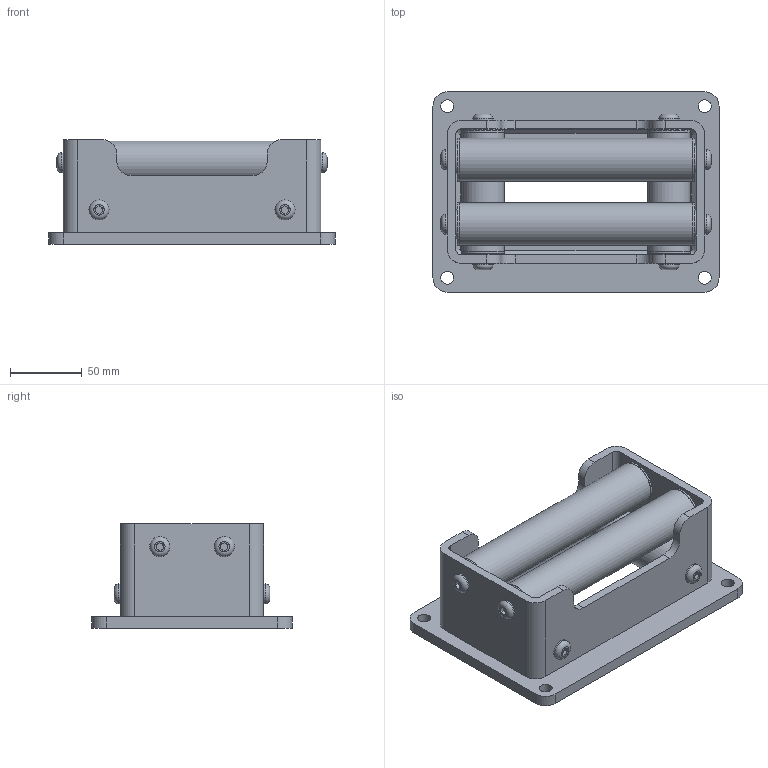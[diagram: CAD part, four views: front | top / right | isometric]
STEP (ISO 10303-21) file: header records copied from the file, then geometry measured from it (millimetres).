
FILE_DESCRIPTION(/* description */ ('Seilfenster SF 02 G'),/* implementation_level */ '2;1');
FILE_NAME(/* name */ 'Z:\Workspace\03 Seilrollen\1.413 Seilfenster\1.413.02 Seilfenster SF 02 G\1.413.02 Seilfenster SF 02 G.stp',/* time_stamp */ '2021-10-26T10:03:51+02:00',/* author */ ('cad-user'),/* organization */ (''),/* preprocessor_version */ 'ST-DEVELOPER v18',/* originating_system */ 'Autodesk Inventor 2020',/* authorisation */ '');
FILE_SCHEMA (('AUTOMOTIVE_DESIGN { 1 0 10303 214 3 1 1 }'));
Length unit declared in the file: millimetre
Products named in the file (11): 1.413.02 Seilfenster SF 02 G; 1.413.02.01 Konsole Schweißteil; 1.413.02.01 Konsole Schweißteil_1; 1.413.02.02 Platte; 1.413.01.03 VK-Profil 140x80x6; 1.413.02.05 Achse kurz; 1.413.02.04 Rohr ø30 x 3,5; BB2022DU; 1.413.02.06 Rohr ø30 x 3,5 lang; 1.413.02.07 Achse lang; ISO 7380 - M8 x 25
Assembly tree (28 placements, depth 3):
  1.413.02 Seilfenster SF 02 G
    1.413.02.01 Konsole Schweißteil
      1.413.02.01 Konsole Schweißteil_1
      1.413.02.02 Platte
      1.413.01.03 VK-Profil 140x80x6
    1.413.02.05 Achse kurz  x2
    1.413.02.04 Rohr ø30 x 3,5  x2
    BB2022DU  x8
    1.413.02.06 Rohr ø30 x 3,5 lang  x2
    1.413.02.07 Achse lang  x2
    ISO 7380 - M8 x 25  x8
Bounding box: 200 x 140 x 73 mm (x, y, z)
Volume: 685118.6 mm3; surface area: 279488.6 mm2
Topology: 27 solids, 27 shells, 372 faces, 956 edges, 652 vertices
Faces by surface type: plane 188, cylinder 108, cone 44, torus 32
Full cylindrical faces by diameter (mm): 6.647 x8, 8 x8, 9 x12, 14 x8, 20 x4, 21 x4, 23 x8, 30 x4
Entity records: 5061 total; most frequent: DIRECTION 880, CARTESIAN_POINT 849, ORIENTED_EDGE 730, EDGE_CURVE 365, AXIS2_PLACEMENT_3D 345, VERTEX_POINT 249, LINE 190, VECTOR 190
